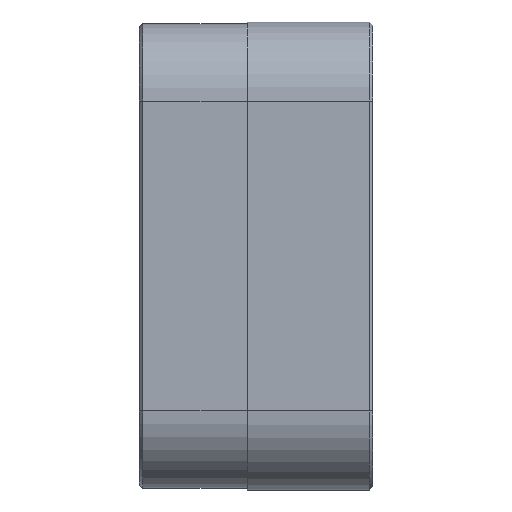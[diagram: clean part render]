
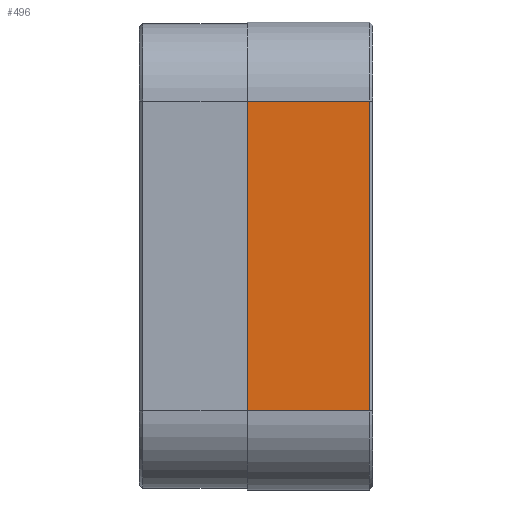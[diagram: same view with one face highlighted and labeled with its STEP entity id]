
A CAD part, left-side view. The second image highlights one B-rep face of the part: STEP entity #496.
In plain terms, the highlighted planar face has unit normal (-1, 0, 0).
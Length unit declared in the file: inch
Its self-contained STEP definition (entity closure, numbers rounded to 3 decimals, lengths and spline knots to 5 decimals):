
#466 = ORIENTED_EDGE ( 'NONE', *, *, #474, .T. ) ;
#467 = ORIENTED_EDGE ( 'NONE', *, *, #476, .T. ) ;
#468 = VERTEX_POINT ( 'NONE', #2801 ) ;
#470 = VERTEX_POINT ( 'NONE', #2807 ) ;
#472 = EDGE_CURVE ( 'NONE', #490, #494, #2814, .T. ) ;
#474 = EDGE_CURVE ( 'NONE', #470, #468, #2824, .T. ) ;
#476 = EDGE_CURVE ( 'NONE', #494, #470, #2826, .T. ) ;
#490 = VERTEX_POINT ( 'NONE', #955 ) ;
#492 = ORIENTED_EDGE ( 'NONE', *, *, #472, .T. ) ;
#494 = VERTEX_POINT ( 'NONE', #962 ) ;
#496 = ADVANCED_FACE ( 'NONE', ( #996 ), #965, .F. ) ;
#497 = EDGE_LOOP ( 'NONE', ( #492, #467, #466, #522 ) ) ;
#522 = ORIENTED_EDGE ( 'NONE', *, *, #542, .F. ) ;
#542 = EDGE_CURVE ( 'NONE', #490, #468, #1105, .T. ) ;
#924 = DIRECTION ( 'NONE',  ( 0., 0., -1. ) ) ;
#947 = AXIS2_PLACEMENT_3D ( 'NONE', #963, #988, #924 ) ;
#955 = CARTESIAN_POINT ( 'NONE',  ( -1.995, 0.8, -0.99 ) ) ;
#962 = CARTESIAN_POINT ( 'NONE',  ( -1.995, 0.02, -0.99 ) ) ;
#963 = CARTESIAN_POINT ( 'NONE',  ( -1.995, 1.49, -1.495 ) ) ;
#965 = PLANE ( 'NONE',  #947 ) ;
#988 = DIRECTION ( 'NONE',  ( 1., 0., 0. ) ) ;
#996 = FACE_OUTER_BOUND ( 'NONE', #497, .T. ) ;
#1102 = DIRECTION ( 'NONE',  ( 0., 0., 1. ) ) ;
#1103 = VECTOR ( 'NONE', #1102, 39.37008 ) ;
#1104 = CARTESIAN_POINT ( 'NONE',  ( -1.995, 0.8, -1.495 ) ) ;
#1105 = LINE ( 'NONE', #1104, #1103 ) ;
#2801 = CARTESIAN_POINT ( 'NONE',  ( -1.995, 0.8, 0.99 ) ) ;
#2807 = CARTESIAN_POINT ( 'NONE',  ( -1.995, 0.02, 0.99 ) ) ;
#2811 = DIRECTION ( 'NONE',  ( 0., -1., 0. ) ) ;
#2812 = VECTOR ( 'NONE', #2811, 39.37008 ) ;
#2813 = CARTESIAN_POINT ( 'NONE',  ( -1.995, 1.49, -0.99 ) ) ;
#2814 = LINE ( 'NONE', #2813, #2812 ) ;
#2824 = LINE ( 'NONE', #2829, #2828 ) ;
#2825 = CARTESIAN_POINT ( 'NONE',  ( -1.995, 0.02, 0.99 ) ) ;
#2826 = LINE ( 'NONE', #2825, #2834 ) ;
#2827 = DIRECTION ( 'NONE',  ( 0., 1., 0. ) ) ;
#2828 = VECTOR ( 'NONE', #2827, 39.37008 ) ;
#2829 = CARTESIAN_POINT ( 'NONE',  ( -1.995, 1.49, 0.99 ) ) ;
#2833 = DIRECTION ( 'NONE',  ( 0., 0., 1. ) ) ;
#2834 = VECTOR ( 'NONE', #2833, 39.37008 ) ;
